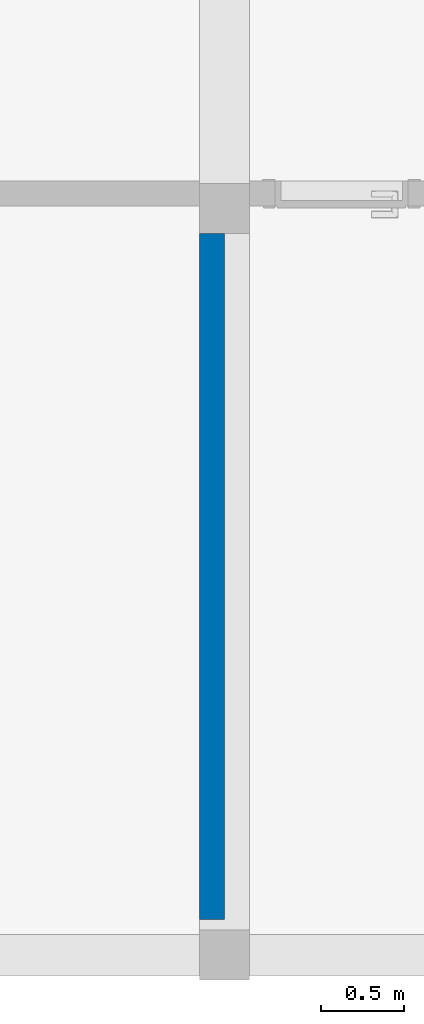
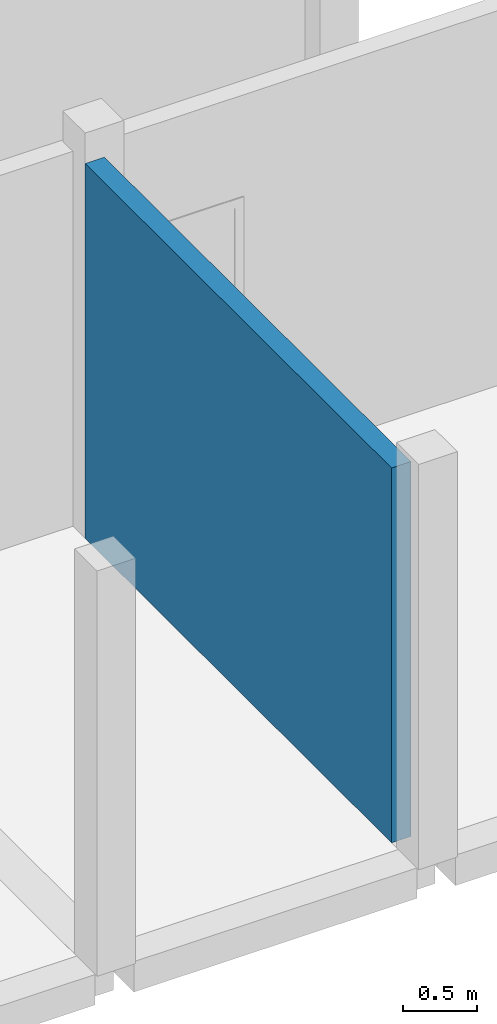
# One storey, part 5 of 11: 1 wall.
"""IFC2X3 building model written with IfcOpenShell, lengths in metres."""

import ifcopenshell
import ifcopenshell.guid

model = None  # the IFC model being written
_history = None  # IfcOwnerHistory: only IFC2X3 demands one
_inside = {}  # id of a spatial element -> (the spatial element, [elements in it])
_under = {}  # id of a project, library or spatial element -> (it, [spatial elements below it])
_declared = {}  # id of a project -> (the project, [libraries it declares])
_typed = {}  # id of a type object -> (the type object, [elements of that type])
_made_of = {}  # id of a material, layer set ... -> (it, [elements and type objects made of it])


def new_model(schema):
    """Start an empty IFC model of exactly this schema.

    Asked for "IFC4X3", IfcOpenShell would pick the latest addendum, in which some entities
    have other attributes; the version numbers below select the first issue.
    IFC2X3 requires an IfcOwnerHistory on every rooted entity: one is made here for all.
    """
    global model, _history
    if schema == "IFC4X3":
        model = ifcopenshell.file(schema_version=(4, 3, 0, 0))
    else:
        model = ifcopenshell.file(schema=schema)
    _inside.clear()
    _under.clear()
    _declared.clear()
    _typed.clear()
    _made_of.clear()
    _history = None
    if model.schema == "IFC2X3":
        org = make("IfcOrganization", Name="unknown")
        user = make(
            "IfcPersonAndOrganization",
            ThePerson=make("IfcPerson", FamilyName="unknown"),
            TheOrganization=org,
        )
        app = make(
            "IfcApplication",
            ApplicationDeveloper=org,
            Version="unknown",
            ApplicationFullName="unknown",
            ApplicationIdentifier="unknown",
        )
        _history = make(
            "IfcOwnerHistory",
            OwningUser=user,
            OwningApplication=app,
            ChangeAction="ADDED",
            CreationDate=0,
        )
    return model


def make(cls, **values):
    """One entity of the class cls with the attributes given. An attribute that is None is left unset."""
    return model.create_entity(
        cls, **{name: value for name, value in values.items() if value is not None}
    )


def entity(cls, *values):
    """Any entity or typed value of the class cls, its attributes in the order of the schema. None: left unset."""
    e = model.create_entity(cls)
    for i, value in enumerate(values):
        if value is not None:
            e[i] = value
    return e


def rooted(cls, **values):
    """An entity with a GlobalId (a new one), such as an element, a storey or a relation."""
    return make(cls, GlobalId=ifcopenshell.guid.new(), OwnerHistory=_history, **values)


def si_unit(unit_type, name, prefix=None):
    """IfcSIUnit, for example si_unit("LENGTHUNIT", "METRE", prefix="MILLI")."""
    return make("IfcSIUnit", UnitType=unit_type, Prefix=prefix, Name=name)


def converted_unit(unit_type, name, factor, base, dimensions=None, offset=None):
    """IfcConversionBasedUnit, such as the inch: factor (a typed value) times the base unit."""
    return make(
        "IfcConversionBasedUnit"
        if offset is None
        else "IfcConversionBasedUnitWithOffset",
        ConversionOffset=offset,
        Dimensions=None
        if dimensions is None
        else entity("IfcDimensionalExponents", *dimensions),
        UnitType=unit_type,
        Name=name,
        ConversionFactor=make(
            "IfcMeasureWithUnit", ValueComponent=factor, UnitComponent=base
        ),
    )


def derived_unit(unit_type, elements):
    """IfcDerivedUnit: a product of units, each with its exponent."""
    return make(
        "IfcDerivedUnit",
        Elements=[
            make("IfcDerivedUnitElement", Unit=unit, Exponent=power)
            for unit, power in elements
        ],
        UnitType=unit_type,
    )


def assignment(units):
    """IfcUnitAssignment: the units of a project."""
    return None if units is None else make("IfcUnitAssignment", Units=units)


def point(xyz):
    """IfcCartesianPoint."""
    return None if xyz is None else make("IfcCartesianPoint", Coordinates=xyz)


def direction(xyz):
    """IfcDirection."""
    return None if xyz is None else make("IfcDirection", DirectionRatios=xyz)


def frame(location, z_axis=None, x_axis=None):
    """IfcAxis2Placement3D, a coordinate frame: its origin and axes. An axis left out is left unset."""
    return make(
        "IfcAxis2Placement3D",
        Location=point(location),
        Axis=direction(z_axis),
        RefDirection=direction(x_axis),
    )


def frame_2d(location, x_axis=None):
    """IfcAxis2Placement2D, a coordinate frame in the plane: its origin and x axis."""
    return make(
        "IfcAxis2Placement2D", Location=point(location), RefDirection=direction(x_axis)
    )


def origin():
    """The frame at (0, 0, 0) with its axes left unset."""
    return frame((0.0, 0.0, 0.0))


def place(relative_to, where):
    """IfcLocalPlacement: puts the frame where relative to a parent placement (None: the world)."""
    return make(
        "IfcLocalPlacement", PlacementRelTo=relative_to, RelativePlacement=where
    )


def context(
    kind, dimensions, precision=None, world=None, true_north=None, identifier=None
):
    """IfcGeometricRepresentationContext, for example the 3D "Model" context."""
    return make(
        "IfcGeometricRepresentationContext",
        ContextIdentifier=identifier,
        ContextType=kind,
        CoordinateSpaceDimension=dimensions,
        Precision=precision,
        WorldCoordinateSystem=world,
        TrueNorth=true_north,
    )


def subcontext(parent, identifier, kind, view, scale=None):
    """IfcGeometricRepresentationSubContext, for example "Body" below "Model"."""
    return make(
        "IfcGeometricRepresentationSubContext",
        ContextIdentifier=identifier,
        ContextType=kind,
        ParentContext=parent,
        TargetScale=scale,
        TargetView=view,
    )


def project(units=None, contexts=None):
    """IfcProject with its units and contexts."""
    return rooted(
        "IfcProject",
        Name="project",
        RepresentationContexts=contexts,
        UnitsInContext=assignment(units),
    )


def spatial(cls, under=None, at=None, **own):
    """A site, building, storey or space (cls), placed at a placement, below another one or the project."""
    s = rooted(cls, ObjectPlacement=at, **own)
    if under is not None:
        _under.setdefault(under.id(), (under, []))[1].append(s)
    return s


def profile(cls, at=None, kind="AREA", **sizes):
    """A parametric profile (cls). Its sizes go by their IFC names, for example OverallWidth=200.0."""
    return make(cls, ProfileType=kind, Position=at, **sizes)


def rectangle(**sizes):
    """IfcRectangleProfileDef."""
    return profile("IfcRectangleProfileDef", **sizes)


def extrude(swept, where, along, depth):
    """IfcExtrudedAreaSolid: the profile swept, set in the frame where, extruded along a direction by depth."""
    return make(
        "IfcExtrudedAreaSolid",
        SweptArea=swept,
        Position=where,
        ExtrudedDirection=direction(along),
        Depth=depth,
    )


def shape(context_of_items, identifier, shape_type, items):
    """IfcShapeRepresentation: the items that make up one representation, for example the "Body"."""
    return make(
        "IfcShapeRepresentation",
        ContextOfItems=context_of_items,
        RepresentationIdentifier=identifier,
        RepresentationType=shape_type,
        Items=items,
    )


def material(Name=None, Category=None):
    """IfcMaterial."""
    return make("IfcMaterial", Name=Name, Category=Category)


def layer(
    of_material, thickness, ventilated=None, Name=None, Category=None, Priority=None
):
    """IfcMaterialLayer: one layer of a wall or slab, of a material (None: an air gap)."""
    return make(
        "IfcMaterialLayer",
        Material=of_material,
        LayerThickness=thickness,
        IsVentilated=ventilated,
        Name=Name,
        Category=Category,
        Priority=Priority,
    )


def layer_set(layers, Name=None):
    """IfcMaterialLayerSet."""
    return make("IfcMaterialLayerSet", MaterialLayers=layers, LayerSetName=Name)


def layer_usage(for_layer_set, set_direction, sense, offset, extent=None):
    """IfcMaterialLayerSetUsage: how a layer set lies in its element."""
    return make(
        "IfcMaterialLayerSetUsage",
        ForLayerSet=for_layer_set,
        LayerSetDirection=set_direction,
        DirectionSense=sense,
        OffsetFromReferenceLine=offset,
        ReferenceExtent=extent,
    )


def made_of(thing, what):
    """Note that an element or type object is made of a material, layer set ...; save() writes the relation."""
    if what is not None:
        _made_of.setdefault(what.id(), (what, []))[1].append(thing)
    return thing


def type_object(cls, material=None, **own):
    """A type object (cls), such as IfcWallType, which elements share."""
    return made_of(rooted(cls, **own), material)


def element(
    cls,
    number,
    at=None,
    inside=None,
    cuts=None,
    type_object=None,
    material=None,
    context=None,
    identifier="Body",
    shape_type=None,
    held_by="IfcProductDefinitionShape",
    body=None,
    shapes=None,
    **own,
):
    """One element of the class cls, such as IfcWall. Its Tag is "e" and its number.

    at: its placement. inside: the storey or other place that contains it. cuts: it is an
    opening in that element (IfcRelVoidsElement). A single representation is given by context,
    identifier, shape_type and body (its items); several are given by shapes. held_by: the class
    of the entity that holds the representations. save() writes the other relations.
    """
    e = rooted(cls, Tag="e%d" % number, ObjectPlacement=at, **own)
    if body is not None:
        shapes = [shape(context, identifier, shape_type, body)]
    if shapes is not None:
        e.Representation = make(held_by, Representations=shapes)
    if inside is not None:
        _inside.setdefault(inside.id(), (inside, []))[1].append(e)
    if cuts is not None:
        rooted(
            "IfcRelVoidsElement", RelatingBuildingElement=cuts, RelatedOpeningElement=e
        )
    if type_object is not None:
        _typed.setdefault(type_object.id(), (type_object, []))[1].append(e)
    return made_of(e, material)


def aggregate(whole, parts):
    """IfcRelAggregates: a whole, such as a stair, and the parts it consists of."""
    return rooted("IfcRelAggregates", RelatingObject=whole, RelatedObjects=parts)


def save(model, path):
    """Write the relations noted so far, then the file.

    IfcRelAggregates (storeys below a building ...), IfcRelContainedInSpatialStructure (elements
    in a storey), IfcRelDefinesByType, IfcRelAssociatesMaterial and IfcRelDeclares: one each for
    every whole, place, type object, material and project.
    """
    for whole, parts in _under.values():
        aggregate(whole, parts)
    for where, things in _inside.values():
        rooted(
            "IfcRelContainedInSpatialStructure",
            RelatedElements=things,
            RelatingStructure=where,
        )
    for kind, things in _typed.values():
        rooted("IfcRelDefinesByType", RelatedObjects=things, RelatingType=kind)
    for what, things in _made_of.values():
        rooted("IfcRelAssociatesMaterial", RelatedObjects=things, RelatingMaterial=what)
    for by, libraries in _declared.values():
        rooted("IfcRelDeclares", RelatingContext=by, RelatedDefinitions=libraries)
    model.write(path)


model = new_model("IFC2X3")

# Units and contexts
model_context = context("Model", 3, precision=1e-05, world=origin(), true_north=direction((6.12303176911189e-17, 1.0)))
context_of_model = context(None, 3, precision=1e-05, world=origin(), true_north=direction((6.12303176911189e-17, 1.0)))
body_context = subcontext(model_context, "Body", "Model", "MODEL_VIEW")
ifc_project = project(units=[si_unit("LENGTHUNIT", "METRE"), si_unit("AREAUNIT", "SQUARE_METRE"), si_unit("VOLUMEUNIT", "CUBIC_METRE"), converted_unit("PLANEANGLEUNIT", "DEGREE", entity("IfcRatioMeasure", 0.0174532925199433), si_unit("PLANEANGLEUNIT", "RADIAN"), dimensions=[0, 0, 0, 0, 0, 0, 0]), si_unit("MASSUNIT", "GRAM", prefix="KILO"), si_unit("TIMEUNIT", "SECOND"), si_unit("FREQUENCYUNIT", "HERTZ"), si_unit("THERMODYNAMICTEMPERATUREUNIT", "DEGREE_CELSIUS"), derived_unit("THERMALTRANSMITTANCEUNIT", [(si_unit("MASSUNIT", "GRAM", prefix="KILO"), 1), (si_unit("THERMODYNAMICTEMPERATUREUNIT", "KELVIN"), -1), (si_unit("TIMEUNIT", "SECOND"), -3)]), derived_unit("VOLUMETRICFLOWRATEUNIT", [(si_unit("LENGTHUNIT", "METRE"), 3), (si_unit("TIMEUNIT", "SECOND"), -1)]), si_unit("ELECTRICCURRENTUNIT", "AMPERE"), si_unit("ELECTRICVOLTAGEUNIT", "VOLT"), si_unit("POWERUNIT", "WATT"), si_unit("FORCEUNIT", "NEWTON", prefix="KILO"), si_unit("ILLUMINANCEUNIT", "LUX"), si_unit("LUMINOUSFLUXUNIT", "LUMEN"), si_unit("LUMINOUSINTENSITYUNIT", "CANDELA"), si_unit("PRESSUREUNIT", "PASCAL")], contexts=[model_context, context_of_model])

# Site, building, storey
site_placement = place(None, origin())
site = spatial("IfcSite", under=ifc_project, at=site_placement, Name="Default", CompositionType="ELEMENT")
building_placement = place(site_placement, origin())
building = spatial("IfcBuilding", under=site, at=building_placement, CompositionType="ELEMENT")
storey_placement = place(building_placement, frame((0.0, 0.0, 3.45)))
storey = spatial("IfcBuildingStorey", under=building, at=storey_placement, Name="02.ES.PLANTA PRIMERA", CompositionType="ELEMENT", Elevation=3.45)

# Wall
ifc_material = material(Name="Muro por defecto")
ifc_layer = layer(ifc_material, 0.15)
ifc_layer_set = layer_set([ifc_layer], Name="Muro básico:Por defecto - 15 cm")
ifc_layer_usage = layer_usage(ifc_layer_set, "AXIS2", "NEGATIVE", 0.075)
wall_type = type_object("IfcWallType", Name="Muro básico:Por defecto - 15 cm", PredefinedType="STANDARD", material=ifc_layer_set)
wall_placement = place(storey_placement, frame((11.49, 4.94006108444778, 0.0), z_axis=(0.0, 0.0, 1.0), x_axis=(0.0, -1.0, 0.0)))
element("IfcWallStandardCase", 1, at=wall_placement, inside=storey, type_object=wall_type, material=ifc_layer_usage, Name="Muro básico:Por defecto - 15 cm", ObjectType="Muro básico:Por defecto - 15 cm", context=body_context, shape_type="SweptSolid", body=[
    extrude(rectangle(XDim=4.12506108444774, YDim=0.150000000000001, at=frame_2d((2.06253054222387, 0.0), x_axis=(-1.0, 0.0))), origin(), (0.0, 0.0, 1.0), 3.08),
])

save(model, "model.ifc")
